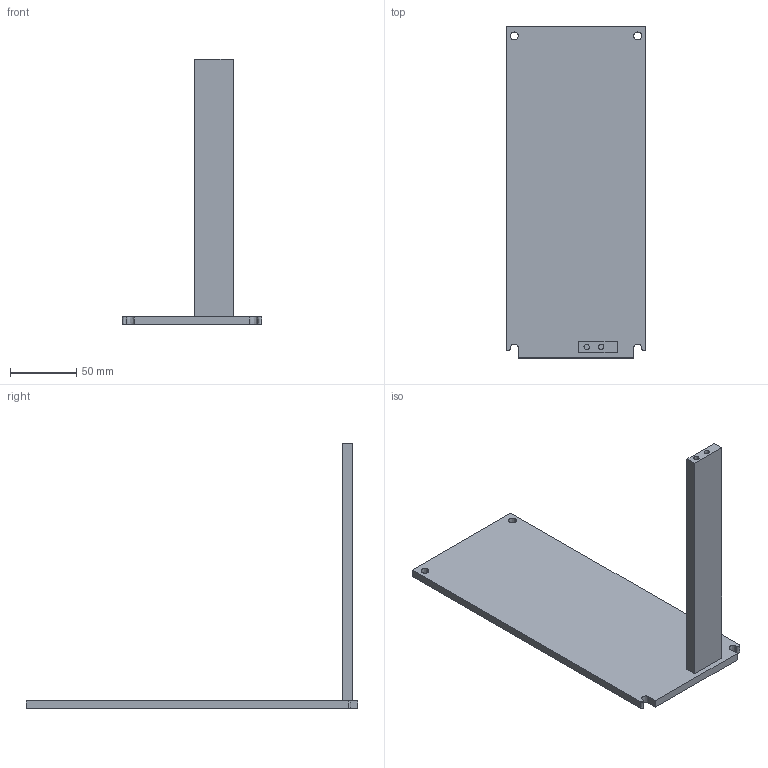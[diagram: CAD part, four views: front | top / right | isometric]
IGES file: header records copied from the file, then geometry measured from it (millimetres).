
Start section:  PTC IGES file: j4-500-chassis.igs
Global section: file name: j4-500-chassis.igs; native system: Pro/ENGINEER by Parametric Technology Corporation; preprocessor: 2010160; author: CV86875; organization: Unknown; date: 20121031.193934; units: millimetre
Bounding box: 105 x 250 x 200 mm (x, y, z)
Volume: 200998.1 mm3; surface area: 71247.7 mm2
Topology: 1 solids, 1 shells, 29 faces, 72 edges, 48 vertices
Faces by surface type: bspline 29
